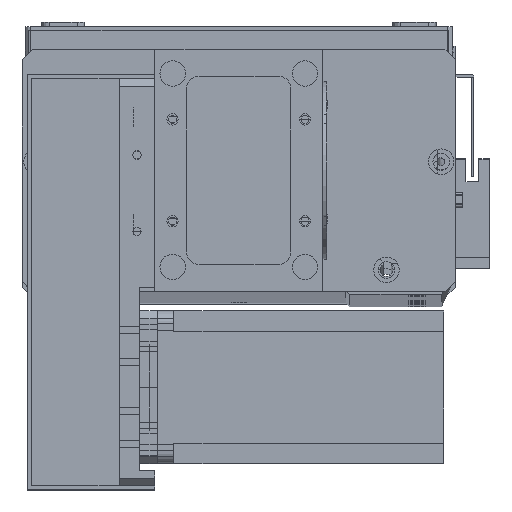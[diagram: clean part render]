
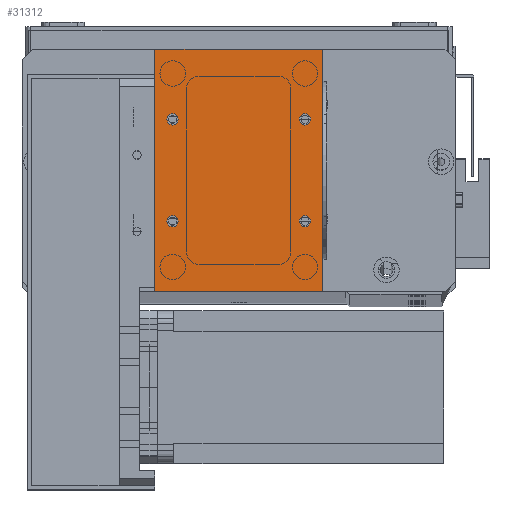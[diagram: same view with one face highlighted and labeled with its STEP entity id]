
A CAD part, top view. The second image highlights one B-rep face of the part: STEP entity #31312.
In plain terms, the highlighted planar face has unit normal (0, 0, 1).
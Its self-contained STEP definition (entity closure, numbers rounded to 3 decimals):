
#150 = CIRCLE ( 'NONE', #27581, 2.25 ) ;
#224 = DIRECTION ( 'NONE',  ( 0., 0., 1. ) ) ;
#655 = FACE_BOUND ( 'NONE', #14727, .T. ) ;
#797 = EDGE_CURVE ( 'NONE', #1829, #17435, #18109, .T. ) ;
#1178 = ORIENTED_EDGE ( 'NONE', *, *, #17913, .F. ) ;
#1623 = AXIS2_PLACEMENT_3D ( 'NONE', #8192, #26800, #10879 ) ;
#1829 = VERTEX_POINT ( 'NONE', #11470 ) ;
#3059 = CARTESIAN_POINT ( 'NONE',  ( 66., 95., 2. ) ) ;
#3081 = CARTESIAN_POINT ( 'NONE',  ( 4.75, 27.5, 2. ) ) ;
#3546 = CARTESIAN_POINT ( 'NONE',  ( 0., 0., 2. ) ) ;
#4398 = ORIENTED_EDGE ( 'NONE', *, *, #11798, .F. ) ;
#7729 = DIRECTION ( 'NONE',  ( 0., 0., 1. ) ) ;
#8192 = CARTESIAN_POINT ( 'NONE',  ( 59., 67.5, 2. ) ) ;
#8208 = ORIENTED_EDGE ( 'NONE', *, *, #28310, .F. ) ;
#8236 = DIRECTION ( 'NONE',  ( 1., 0., 0. ) ) ;
#8306 = CARTESIAN_POINT ( 'NONE',  ( 66., 0., 2. ) ) ;
#8589 = CARTESIAN_POINT ( 'NONE',  ( 7., 27.5, 2. ) ) ;
#8919 = EDGE_CURVE ( 'NONE', #24712, #13326, #20710, .T. ) ;
#8998 = ORIENTED_EDGE ( 'NONE', *, *, #8919, .T. ) ;
#9009 = PLANE ( 'NONE',  #23581 ) ;
#9445 = VERTEX_POINT ( 'NONE', #15795 ) ;
#9671 = DIRECTION ( 'NONE',  ( 0., 1., 0. ) ) ;
#9905 = CARTESIAN_POINT ( 'NONE',  ( 66., 0., 2. ) ) ;
#10748 = VERTEX_POINT ( 'NONE', #33397 ) ;
#10879 = DIRECTION ( 'NONE',  ( 1., 0., 0. ) ) ;
#10983 = EDGE_CURVE ( 'NONE', #13725, #9445, #24577, .T. ) ;
#11298 = CARTESIAN_POINT ( 'NONE',  ( 0., 0., 2. ) ) ;
#11307 = DIRECTION ( 'NONE',  ( 1., 0., 0. ) ) ;
#11470 = CARTESIAN_POINT ( 'NONE',  ( 0., 95., 2. ) ) ;
#11565 = ORIENTED_EDGE ( 'NONE', *, *, #24571, .F. ) ;
#11798 = EDGE_CURVE ( 'NONE', #23991, #32156, #150, .T. ) ;
#12057 = ORIENTED_EDGE ( 'NONE', *, *, #18867, .T. ) ;
#12076 = ORIENTED_EDGE ( 'NONE', *, *, #797, .T. ) ;
#12398 = CIRCLE ( 'NONE', #13759, 2.25 ) ;
#13326 = VERTEX_POINT ( 'NONE', #3059 ) ;
#13511 = CARTESIAN_POINT ( 'NONE',  ( 0., 95., 2. ) ) ;
#13592 = VERTEX_POINT ( 'NONE', #23201 ) ;
#13725 = VERTEX_POINT ( 'NONE', #21108 ) ;
#13759 = AXIS2_PLACEMENT_3D ( 'NONE', #8589, #27188, #11307 ) ;
#14252 = FACE_BOUND ( 'NONE', #22213, .T. ) ;
#14442 = DIRECTION ( 'NONE',  ( -1., 0., 0. ) ) ;
#14727 = EDGE_LOOP ( 'NONE', ( #1178, #29162 ) ) ;
#14905 = CARTESIAN_POINT ( 'NONE',  ( 59., 27.5, 2. ) ) ;
#15412 = AXIS2_PLACEMENT_3D ( 'NONE', #30077, #30041, #30027 ) ;
#15712 = CARTESIAN_POINT ( 'NONE',  ( 59., 27.5, 2. ) ) ;
#15795 = CARTESIAN_POINT ( 'NONE',  ( 9.25, 67.5, 2. ) ) ;
#16159 = EDGE_CURVE ( 'NONE', #13326, #1829, #25931, .T. ) ;
#16180 = DIRECTION ( 'NONE',  ( 1., 0., 0. ) ) ;
#16212 = DIRECTION ( 'NONE',  ( 0., 0., 1. ) ) ;
#16254 = CARTESIAN_POINT ( 'NONE',  ( 7., 27.5, 2. ) ) ;
#16456 = CARTESIAN_POINT ( 'NONE',  ( 7., 67.5, 2. ) ) ;
#16684 = AXIS2_PLACEMENT_3D ( 'NONE', #14905, #33242, #17587 ) ;
#17305 = EDGE_LOOP ( 'NONE', ( #30334, #11565 ) ) ;
#17318 = VECTOR ( 'NONE', #30050, 1000. ) ;
#17435 = VERTEX_POINT ( 'NONE', #11298 ) ;
#17587 = DIRECTION ( 'NONE',  ( 1., 0., 0. ) ) ;
#17913 = EDGE_CURVE ( 'NONE', #9445, #13725, #23538, .T. ) ;
#18109 = LINE ( 'NONE', #25515, #17318 ) ;
#18358 = DIRECTION ( 'NONE',  ( 1., 0., 0. ) ) ;
#18374 = EDGE_CURVE ( 'NONE', #20298, #10748, #30468, .T. ) ;
#18459 = ORIENTED_EDGE ( 'NONE', *, *, #18374, .F. ) ;
#18867 = EDGE_CURVE ( 'NONE', #17435, #24712, #27172, .T. ) ;
#19091 = DIRECTION ( 'NONE',  ( 1., 0., 0. ) ) ;
#19652 = DIRECTION ( 'NONE',  ( 0., 0., -1. ) ) ;
#19665 = CIRCLE ( 'NONE', #25069, 2.25 ) ;
#20160 = EDGE_LOOP ( 'NONE', ( #8208, #4398 ) ) ;
#20173 = VECTOR ( 'NONE', #8236, 1000. ) ;
#20298 = VERTEX_POINT ( 'NONE', #22390 ) ;
#20710 = LINE ( 'NONE', #9905, #24429 ) ;
#21108 = CARTESIAN_POINT ( 'NONE',  ( 4.75, 67.5, 2. ) ) ;
#21318 = AXIS2_PLACEMENT_3D ( 'NONE', #16456, #224, #19091 ) ;
#22107 = EDGE_CURVE ( 'NONE', #13592, #26731, #25397, .T. ) ;
#22213 = EDGE_LOOP ( 'NONE', ( #28679, #18459 ) ) ;
#22390 = CARTESIAN_POINT ( 'NONE',  ( 56.75, 27.5, 2. ) ) ;
#23201 = CARTESIAN_POINT ( 'NONE',  ( 61.25, 67.5, 2. ) ) ;
#23538 = CIRCLE ( 'NONE', #21318, 2.25 ) ;
#23541 = AXIS2_PLACEMENT_3D ( 'NONE', #15712, #34031, #18358 ) ;
#23581 = AXIS2_PLACEMENT_3D ( 'NONE', #3546, #19652, #14442 ) ;
#23700 = CARTESIAN_POINT ( 'NONE',  ( 59., 67.5, 2. ) ) ;
#23991 = VERTEX_POINT ( 'NONE', #3081 ) ;
#24429 = VECTOR ( 'NONE', #9671, 1000. ) ;
#24571 = EDGE_CURVE ( 'NONE', #26731, #13592, #19665, .T. ) ;
#24577 = CIRCLE ( 'NONE', #15412, 2.25 ) ;
#24712 = VERTEX_POINT ( 'NONE', #8306 ) ;
#25006 = EDGE_CURVE ( 'NONE', #10748, #20298, #27462, .T. ) ;
#25069 = AXIS2_PLACEMENT_3D ( 'NONE', #23700, #7729, #26352 ) ;
#25194 = CARTESIAN_POINT ( 'NONE',  ( 56.75, 67.5, 2. ) ) ;
#25397 = CIRCLE ( 'NONE', #1623, 2.25 ) ;
#25515 = CARTESIAN_POINT ( 'NONE',  ( 0., 0., 2. ) ) ;
#25931 = LINE ( 'NONE', #13511, #32831 ) ;
#26352 = DIRECTION ( 'NONE',  ( 1., 0., 0. ) ) ;
#26731 = VERTEX_POINT ( 'NONE', #25194 ) ;
#26800 = DIRECTION ( 'NONE',  ( 0., 0., 1. ) ) ;
#27172 = LINE ( 'NONE', #29317, #20173 ) ;
#27188 = DIRECTION ( 'NONE',  ( 0., 0., 1. ) ) ;
#27462 = CIRCLE ( 'NONE', #16684, 2.25 ) ;
#27466 = FACE_BOUND ( 'NONE', #17305, .T. ) ;
#27581 = AXIS2_PLACEMENT_3D ( 'NONE', #16254, #16212, #16180 ) ;
#28301 = FACE_OUTER_BOUND ( 'NONE', #28776, .T. ) ;
#28310 = EDGE_CURVE ( 'NONE', #32156, #23991, #12398, .T. ) ;
#28679 = ORIENTED_EDGE ( 'NONE', *, *, #25006, .F. ) ;
#28776 = EDGE_LOOP ( 'NONE', ( #12076, #12057, #8998, #32522 ) ) ;
#29162 = ORIENTED_EDGE ( 'NONE', *, *, #10983, .F. ) ;
#29288 = DIRECTION ( 'NONE',  ( -1., 0., 0. ) ) ;
#29317 = CARTESIAN_POINT ( 'NONE',  ( 0., 0., 2. ) ) ;
#30027 = DIRECTION ( 'NONE',  ( 1., 0., 0. ) ) ;
#30041 = DIRECTION ( 'NONE',  ( 0., 0., 1. ) ) ;
#30050 = DIRECTION ( 'NONE',  ( 0., -1., 0. ) ) ;
#30077 = CARTESIAN_POINT ( 'NONE',  ( 7., 67.5, 2. ) ) ;
#30334 = ORIENTED_EDGE ( 'NONE', *, *, #22107, .F. ) ;
#30468 = CIRCLE ( 'NONE', #23541, 2.25 ) ;
#31312 = ADVANCED_FACE ( 'NONE', ( #655, #27466, #14252, #34337, #28301 ), #9009, .F. ) ;
#32156 = VERTEX_POINT ( 'NONE', #34084 ) ;
#32522 = ORIENTED_EDGE ( 'NONE', *, *, #16159, .T. ) ;
#32831 = VECTOR ( 'NONE', #29288, 1000. ) ;
#33242 = DIRECTION ( 'NONE',  ( 0., 0., 1. ) ) ;
#33397 = CARTESIAN_POINT ( 'NONE',  ( 61.25, 27.5, 2. ) ) ;
#34031 = DIRECTION ( 'NONE',  ( 0., 0., 1. ) ) ;
#34084 = CARTESIAN_POINT ( 'NONE',  ( 9.25, 27.5, 2. ) ) ;
#34337 = FACE_BOUND ( 'NONE', #20160, .T. ) ;
